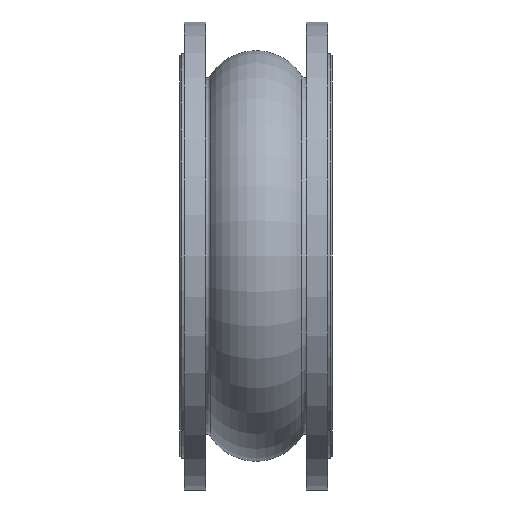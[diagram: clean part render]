
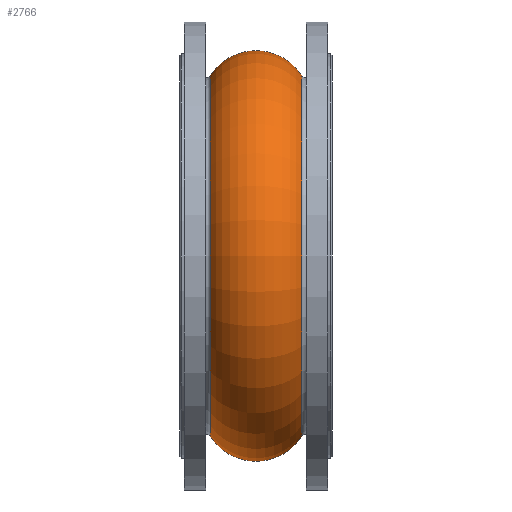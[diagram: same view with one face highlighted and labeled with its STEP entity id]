
A CAD part, front view. The second image highlights one B-rep face of the part: STEP entity #2766.
In plain terms, the highlighted toroidal (fillet/blend) face has major radius 198.204 mm and minor radius 71.591 mm.
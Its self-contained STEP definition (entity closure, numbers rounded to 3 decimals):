
#1464 = DIRECTION ( 'NONE',  ( 0., 0., 1. ) ) ;
#1465 = DIRECTION ( 'NONE',  ( -1., 0., 0. ) ) ;
#1466 = CARTESIAN_POINT ( 'NONE',  ( 60.006, 0., 0. ) ) ;
#1504 = CARTESIAN_POINT ( 'NONE',  ( 60.006, 0., -237.251 ) ) ;
#1511 = CARTESIAN_POINT ( 'NONE',  ( -60.006, 0., 237.251 ) ) ;
#1517 = DIRECTION ( 'NONE',  ( 0., 0., -1. ) ) ;
#1518 = DIRECTION ( 'NONE',  ( 0., -1., 0. ) ) ;
#1519 = CARTESIAN_POINT ( 'NONE',  ( 0., 0., 198.204 ) ) ;
#1520 = AXIS2_PLACEMENT_3D ( 'NONE', #1519, #1518, #1517 ) ;
#1521 = CIRCLE ( 'NONE', #1523, 237.251 ) ;
#1522 = CARTESIAN_POINT ( 'NONE',  ( -60.006, 0., -237.251 ) ) ;
#1523 = AXIS2_PLACEMENT_3D ( 'NONE', #1466, #1465, #1464 ) ;
#1555 = CIRCLE ( 'NONE', #1520, 71.591 ) ;
#1563 = CARTESIAN_POINT ( 'NONE',  ( 60.006, 0., 237.251 ) ) ;
#1658 = AXIS2_PLACEMENT_3D ( 'NONE', #1757, #1784, #1769 ) ;
#1757 = CARTESIAN_POINT ( 'NONE',  ( 0., 0., -198.204 ) ) ;
#1769 = DIRECTION ( 'NONE',  ( 0., 0., 1. ) ) ;
#1773 = CIRCLE ( 'NONE', #1658, 71.591 ) ;
#1784 = DIRECTION ( 'NONE',  ( 0., 1., 0. ) ) ;
#2259 = VERTEX_POINT ( 'NONE', #1511 ) ;
#2263 = VERTEX_POINT ( 'NONE', #1504 ) ;
#2275 = VERTEX_POINT ( 'NONE', #1563 ) ;
#2281 = EDGE_CURVE ( 'NONE', #2275, #2259, #1555, .T. ) ;
#2285 = EDGE_CURVE ( 'NONE', #2263, #2275, #1521, .T. ) ;
#2288 = VERTEX_POINT ( 'NONE', #1522 ) ;
#2290 = EDGE_CURVE ( 'NONE', #2263, #2288, #1773, .T. ) ;
#2663 = EDGE_CURVE ( 'NONE', #2288, #2259, #4021, .T. ) ;
#2765 = ORIENTED_EDGE ( 'NONE', *, *, #2290, .F. ) ;
#2766 = ADVANCED_FACE ( 'NONE', ( #3343 ), #3296, .T. ) ;
#2768 = ORIENTED_EDGE ( 'NONE', *, *, #2281, .T. ) ;
#2770 = EDGE_LOOP ( 'NONE', ( #2765, #2872, #2768, #2773 ) ) ;
#2773 = ORIENTED_EDGE ( 'NONE', *, *, #2663, .F. ) ;
#2872 = ORIENTED_EDGE ( 'NONE', *, *, #2285, .T. ) ;
#3296 = TOROIDAL_SURFACE ( 'NONE', #3361, 198.204, 71.591 ) ;
#3329 = DIRECTION ( 'NONE',  ( -1., 0., 0. ) ) ;
#3343 = FACE_OUTER_BOUND ( 'NONE', #2770, .T. ) ;
#3361 = AXIS2_PLACEMENT_3D ( 'NONE', #3378, #3329, #3375 ) ;
#3375 = DIRECTION ( 'NONE',  ( 0., 0., 1. ) ) ;
#3378 = CARTESIAN_POINT ( 'NONE',  ( 0., 0., 0. ) ) ;
#4018 = DIRECTION ( 'NONE',  ( 0., 0., 1. ) ) ;
#4019 = DIRECTION ( 'NONE',  ( -1., 0., 0. ) ) ;
#4020 = CARTESIAN_POINT ( 'NONE',  ( -60.006, 0., 0. ) ) ;
#4021 = CIRCLE ( 'NONE', #4037, 237.251 ) ;
#4037 = AXIS2_PLACEMENT_3D ( 'NONE', #4020, #4019, #4018 ) ;
